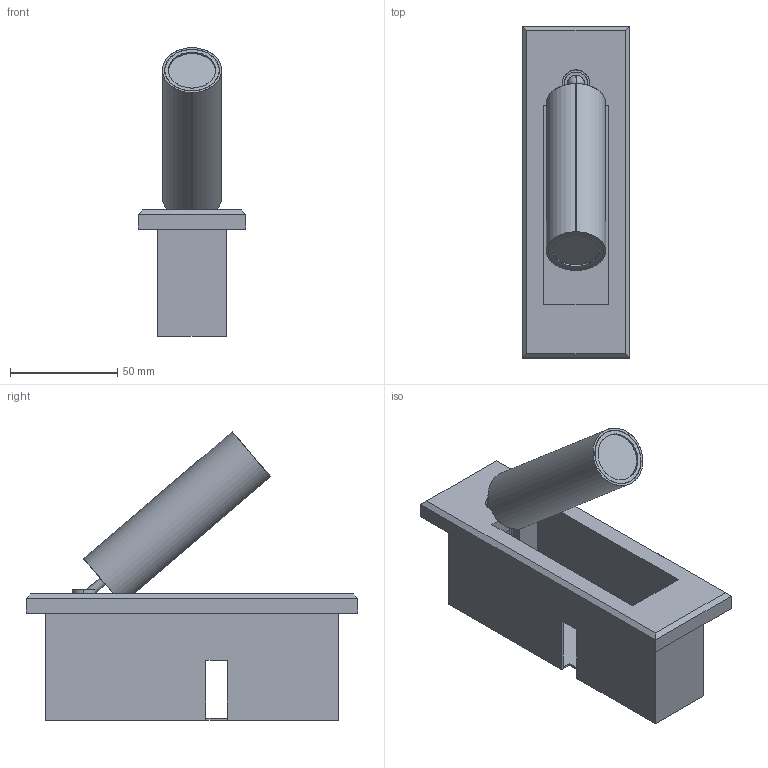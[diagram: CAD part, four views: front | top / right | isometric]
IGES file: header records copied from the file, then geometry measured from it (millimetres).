
Start section: SolidWorks IGES file using analytic representation for surfaces
Global section: file name: 76HF:\李明祥\3D\2025-11\Embedded Bedside Sconce-D5XH15.5CM（Hidden switch）.IGS; native system: SolidWorks 2022; preprocessor: SolidWorks 2022; author: MyPC; date: 251113.162335; units: millimetre
Bounding box: 50 x 155 x 134.75 mm (x, y, z)
Surface area: 78881.1 mm2 (no closed solid volume)
Topology: 0 solids, 0 shells, 91 faces, 1074 edges, 1068 vertices
Faces by surface type: bspline 63, revolution 28
